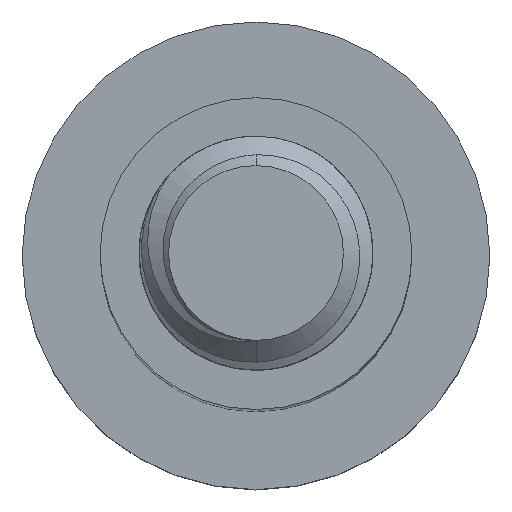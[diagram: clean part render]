
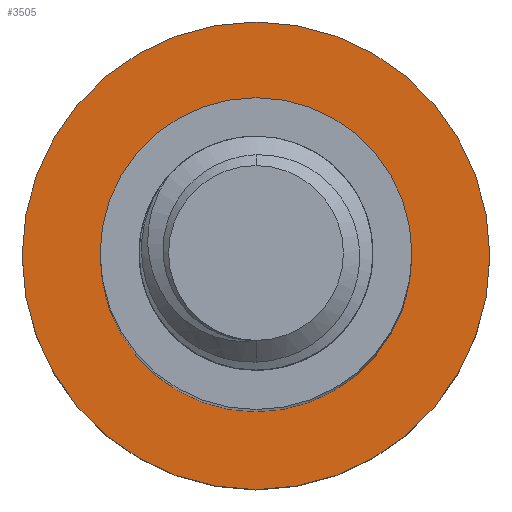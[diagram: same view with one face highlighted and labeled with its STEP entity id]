
A CAD part, top view. The second image highlights one B-rep face of the part: STEP entity #3505.
In plain terms, the highlighted planar face has unit normal (0, 0, 1).
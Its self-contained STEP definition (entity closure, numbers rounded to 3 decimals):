
#115 = CIRCLE ( 'NONE', #1795, 12. ) ;
#163 = CIRCLE ( 'NONE', #2599, 8. ) ;
#185 = CARTESIAN_POINT ( 'NONE',  ( 0., 0., -65. ) ) ;
#208 = VERTEX_POINT ( 'NONE', #4049 ) ;
#246 = VERTEX_POINT ( 'NONE', #1401 ) ;
#581 = CIRCLE ( 'NONE', #1586, 8. ) ;
#600 = DIRECTION ( 'NONE',  ( -1., 0., 0. ) ) ;
#709 = CARTESIAN_POINT ( 'NONE',  ( 0., 0., -65. ) ) ;
#863 = DIRECTION ( 'NONE',  ( 0., 0., -1. ) ) ;
#978 = ORIENTED_EDGE ( 'NONE', *, *, #1418, .F. ) ;
#1181 = CARTESIAN_POINT ( 'NONE',  ( 12., 0., -65. ) ) ;
#1207 = CIRCLE ( 'NONE', #1967, 12. ) ;
#1238 = ORIENTED_EDGE ( 'NONE', *, *, #4082, .T. ) ;
#1401 = CARTESIAN_POINT ( 'NONE',  ( -12., 0., -65. ) ) ;
#1418 = EDGE_CURVE ( 'NONE', #246, #3932, #1207, .T. ) ;
#1586 = AXIS2_PLACEMENT_3D ( 'NONE', #2072, #863, #2524 ) ;
#1795 = AXIS2_PLACEMENT_3D ( 'NONE', #3661, #2023, #4399 ) ;
#1920 = DIRECTION ( 'NONE',  ( 0., 0., -1. ) ) ;
#1949 = FACE_BOUND ( 'NONE', #4602, .T. ) ;
#1967 = AXIS2_PLACEMENT_3D ( 'NONE', #3818, #3443, #5053 ) ;
#2023 = DIRECTION ( 'NONE',  ( 0., 0., -1. ) ) ;
#2072 = CARTESIAN_POINT ( 'NONE',  ( 0., 0., -65. ) ) ;
#2425 = FACE_OUTER_BOUND ( 'NONE', #2793, .T. ) ;
#2524 = DIRECTION ( 'NONE',  ( -1., 0., 0. ) ) ;
#2599 = AXIS2_PLACEMENT_3D ( 'NONE', #185, #3303, #600 ) ;
#2793 = EDGE_LOOP ( 'NONE', ( #3840, #978 ) ) ;
#2964 = EDGE_CURVE ( 'NONE', #3932, #246, #115, .T. ) ;
#3303 = DIRECTION ( 'NONE',  ( 0., 0., -1. ) ) ;
#3443 = DIRECTION ( 'NONE',  ( 0., 0., -1. ) ) ;
#3476 = PLANE ( 'NONE',  #4628 ) ;
#3505 = ADVANCED_FACE ( 'NONE', ( #1949, #2425 ), #3476, .F. ) ;
#3661 = CARTESIAN_POINT ( 'NONE',  ( 0., 0., -65. ) ) ;
#3804 = VERTEX_POINT ( 'NONE', #4116 ) ;
#3818 = CARTESIAN_POINT ( 'NONE',  ( 0., 0., -65. ) ) ;
#3840 = ORIENTED_EDGE ( 'NONE', *, *, #2964, .F. ) ;
#3932 = VERTEX_POINT ( 'NONE', #1181 ) ;
#3968 = ORIENTED_EDGE ( 'NONE', *, *, #4451, .T. ) ;
#4049 = CARTESIAN_POINT ( 'NONE',  ( 8., 0., -65. ) ) ;
#4082 = EDGE_CURVE ( 'NONE', #208, #3804, #163, .T. ) ;
#4116 = CARTESIAN_POINT ( 'NONE',  ( -8., 0., -65. ) ) ;
#4399 = DIRECTION ( 'NONE',  ( -1., 0., 0. ) ) ;
#4451 = EDGE_CURVE ( 'NONE', #3804, #208, #581, .T. ) ;
#4602 = EDGE_LOOP ( 'NONE', ( #3968, #1238 ) ) ;
#4628 = AXIS2_PLACEMENT_3D ( 'NONE', #709, #1920, #5111 ) ;
#5053 = DIRECTION ( 'NONE',  ( -1., 0., 0. ) ) ;
#5111 = DIRECTION ( 'NONE',  ( -1., 0., 0. ) ) ;
